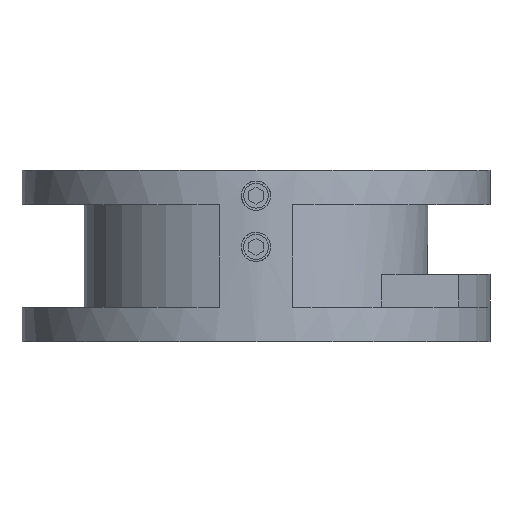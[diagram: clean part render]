
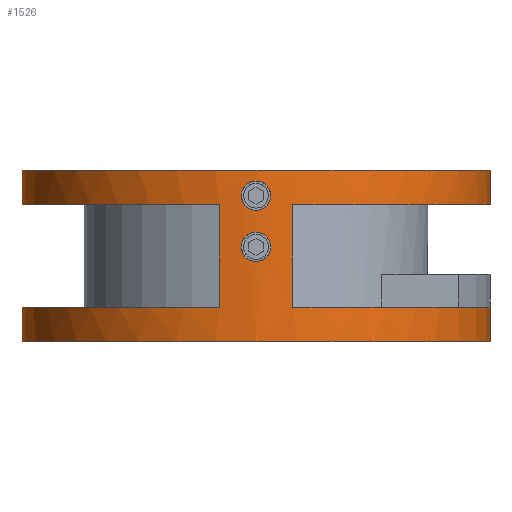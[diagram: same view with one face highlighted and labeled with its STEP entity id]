
A CAD part, front view. The second image highlights one B-rep face of the part: STEP entity #1526.
In plain terms, the highlighted cylindrical face has radius 64 mm (diameter 128 mm), a partial arc.
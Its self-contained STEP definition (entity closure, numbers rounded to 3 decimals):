
#7=CARTESIAN_POINT('',(0.,0.,-23.5));
#8=DIRECTION('',(0.,0.,1.));
#9=DIRECTION('',(-1.,0.,0.));
#10=AXIS2_PLACEMENT_3D('',#7,#8,#9);
#110=DIRECTION('',(0.,0.,1.));
#111=VECTOR('',#110,9.5);
#112=CARTESIAN_POINT('',(64.,0.,-23.5));
#113=LINE('',#112,#111);
#132=DIRECTION('',(0.,0.,1.));
#133=VECTOR('',#132,9.5);
#134=CARTESIAN_POINT('',(64.,0.,14.));
#135=LINE('',#134,#133);
#206=CARTESIAN_POINT('',(0.,0.,-14.));
#207=DIRECTION('',(0.,0.,1.));
#208=DIRECTION('',(0.866,-0.5,0.));
#209=AXIS2_PLACEMENT_3D('',#206,#207,#208);
#211=DIRECTION('',(0.,0.,1.));
#212=VECTOR('',#211,9.5);
#213=CARTESIAN_POINT('',(-64.,0.,-23.5));
#214=LINE('',#213,#212);
#215=CARTESIAN_POINT('',(0.,0.,-14.));
#216=DIRECTION('',(0.,0.,1.));
#217=DIRECTION('',(-1.,0.,0.));
#218=AXIS2_PLACEMENT_3D('',#215,#216,#217);
#220=DIRECTION('',(0.,0.,1.));
#221=VECTOR('',#220,28.);
#222=CARTESIAN_POINT('',(-10.,-63.214,-14.));
#223=LINE('',#222,#221);
#224=CARTESIAN_POINT('',(0.,0.,14.));
#225=DIRECTION('',(0.,0.,1.));
#226=DIRECTION('',(-1.,0.,0.));
#227=AXIS2_PLACEMENT_3D('',#224,#225,#226);
#229=DIRECTION('',(0.,0.,1.));
#230=VECTOR('',#229,9.5);
#231=CARTESIAN_POINT('',(-64.,0.,14.));
#232=LINE('',#231,#230);
#233=CARTESIAN_POINT('',(0.,0.,14.));
#234=DIRECTION('',(0.,0.,1.));
#235=DIRECTION('',(0.156,-0.988,0.));
#236=AXIS2_PLACEMENT_3D('',#233,#234,#235);
#238=CARTESIAN_POINT('',(0.,0.,-14.));
#239=DIRECTION('',(0.,0.,1.));
#240=DIRECTION('',(0.156,-0.988,0.));
#241=AXIS2_PLACEMENT_3D('',#238,#239,#240);
#243=CARTESIAN_POINT('',(-3.4,-63.91,16.5));
#244=CARTESIAN_POINT('',(-3.4,-63.91,16.168));
#245=CARTESIAN_POINT('',(-3.307,-63.915,15.534));
#246=CARTESIAN_POINT('',(-2.9,-63.935,14.636));
#247=CARTESIAN_POINT('',(-2.257,-63.962,13.896));
#248=CARTESIAN_POINT('',(-1.431,-63.986,13.365));
#249=CARTESIAN_POINT('',(-0.49,-64.001,
13.089));
#250=CARTESIAN_POINT('',(0.49,-64.001,13.089));
#251=CARTESIAN_POINT('',(1.431,-63.986,13.365));
#252=CARTESIAN_POINT('',(2.257,-63.962,13.896));
#253=CARTESIAN_POINT('',(2.9,-63.935,14.636));
#254=CARTESIAN_POINT('',(3.307,-63.915,15.534));
#255=CARTESIAN_POINT('',(3.4,-63.91,16.168));
#256=CARTESIAN_POINT('',(3.4,-63.91,16.5));
#258=CARTESIAN_POINT('',(3.4,-63.91,16.5));
#259=CARTESIAN_POINT('',(3.4,-63.91,16.832));
#260=CARTESIAN_POINT('',(3.307,-63.915,17.466));
#261=CARTESIAN_POINT('',(2.9,-63.935,18.364));
#262=CARTESIAN_POINT('',(2.257,-63.962,19.104));
#263=CARTESIAN_POINT('',(1.431,-63.986,19.635));
#264=CARTESIAN_POINT('',(0.49,-64.001,19.911));
#265=CARTESIAN_POINT('',(-0.49,-64.001,
19.911));
#266=CARTESIAN_POINT('',(-1.431,-63.986,19.635));
#267=CARTESIAN_POINT('',(-2.257,-63.962,19.104));
#268=CARTESIAN_POINT('',(-2.9,-63.935,18.364));
#269=CARTESIAN_POINT('',(-3.307,-63.915,17.466));
#270=CARTESIAN_POINT('',(-3.4,-63.91,16.832));
#271=CARTESIAN_POINT('',(-3.4,-63.91,16.5));
#273=CARTESIAN_POINT('',(-3.4,-63.91,2.5));
#274=CARTESIAN_POINT('',(-3.4,-63.91,2.168));
#275=CARTESIAN_POINT('',(-3.307,-63.915,1.534));
#276=CARTESIAN_POINT('',(-2.9,-63.935,
0.636));
#277=CARTESIAN_POINT('',(-2.257,-63.962,
-0.104));
#278=CARTESIAN_POINT('',(-1.431,-63.986,
-0.635));
#279=CARTESIAN_POINT('',(-0.49,-64.001,
-0.911));
#280=CARTESIAN_POINT('',(0.49,-64.001,
-0.911));
#281=CARTESIAN_POINT('',(1.431,-63.986,
-0.635));
#282=CARTESIAN_POINT('',(2.257,-63.962,
-0.104));
#283=CARTESIAN_POINT('',(2.9,-63.935,0.636));
#284=CARTESIAN_POINT('',(3.307,-63.915,1.534));
#285=CARTESIAN_POINT('',(3.4,-63.91,2.168));
#286=CARTESIAN_POINT('',(3.4,-63.91,2.5));
#288=CARTESIAN_POINT('',(3.4,-63.91,2.5));
#289=CARTESIAN_POINT('',(3.4,-63.91,2.832));
#290=CARTESIAN_POINT('',(3.307,-63.915,3.466));
#291=CARTESIAN_POINT('',(2.9,-63.935,4.364));
#292=CARTESIAN_POINT('',(2.257,-63.962,5.104));
#293=CARTESIAN_POINT('',(1.431,-63.986,5.635));
#294=CARTESIAN_POINT('',(0.49,-64.001,5.911));
#295=CARTESIAN_POINT('',(-0.49,-64.001,
5.911));
#296=CARTESIAN_POINT('',(-1.431,-63.986,5.635));
#297=CARTESIAN_POINT('',(-2.257,-63.962,5.104));
#298=CARTESIAN_POINT('',(-2.9,-63.935,4.364));
#299=CARTESIAN_POINT('',(-3.307,-63.915,3.466));
#300=CARTESIAN_POINT('',(-3.4,-63.91,2.832));
#301=CARTESIAN_POINT('',(-3.4,-63.91,2.5));
#418=DIRECTION('',(0.,0.,1.));
#419=VECTOR('',#418,28.);
#420=CARTESIAN_POINT('',(10.,-63.214,-14.));
#421=LINE('',#420,#419);
#427=CARTESIAN_POINT('',(0.,0.,23.5));
#428=DIRECTION('',(0.,0.,1.));
#429=DIRECTION('',(-1.,0.,0.));
#430=AXIS2_PLACEMENT_3D('',#427,#428,#429);
#1092=CARTESIAN_POINT('',(64.,0.,-23.5));
#1093=CARTESIAN_POINT('',(-64.,0.,-23.5));
#1094=VERTEX_POINT('',#1092);
#1095=VERTEX_POINT('',#1093);
#1096=CARTESIAN_POINT('',(64.,0.,23.5));
#1097=CARTESIAN_POINT('',(-64.,0.,23.5));
#1098=VERTEX_POINT('',#1096);
#1099=VERTEX_POINT('',#1097);
#1108=CARTESIAN_POINT('',(64.,0.,14.));
#1109=VERTEX_POINT('',#1108);
#1110=CARTESIAN_POINT('',(-64.,0.,-14.));
#1111=VERTEX_POINT('',#1110);
#1112=CARTESIAN_POINT('',(-64.,0.,14.));
#1113=VERTEX_POINT('',#1112);
#1123=CARTESIAN_POINT('',(-10.,-63.214,-14.));
#1125=VERTEX_POINT('',#1123);
#1126=CARTESIAN_POINT('',(10.,-63.214,-14.));
#1128=VERTEX_POINT('',#1126);
#1139=CARTESIAN_POINT('',(-10.,-63.214,14.));
#1141=VERTEX_POINT('',#1139);
#1142=CARTESIAN_POINT('',(10.,-63.214,14.));
#1144=VERTEX_POINT('',#1142);
#1150=CARTESIAN_POINT('',(55.426,-32.,-14.));
#1151=CARTESIAN_POINT('',(64.,0.,-14.));
#1152=VERTEX_POINT('',#1150);
#1153=VERTEX_POINT('',#1151);
#1335=CARTESIAN_POINT('',(3.4,-63.91,16.5));
#1337=VERTEX_POINT('',#1335);
#1339=CARTESIAN_POINT('',(-3.4,-63.91,16.5));
#1341=VERTEX_POINT('',#1339);
#1343=CARTESIAN_POINT('',(3.4,-63.91,2.5));
#1345=VERTEX_POINT('',#1343);
#1347=CARTESIAN_POINT('',(-3.4,-63.91,2.5));
#1349=VERTEX_POINT('',#1347);
#1487=CARTESIAN_POINT('',(0.,0.,-23.5));
#1488=DIRECTION('',(0.,0.,1.));
#1489=DIRECTION('',(1.,0.,0.));
#1490=AXIS2_PLACEMENT_3D('',#1487,#1488,#1489);
#1491=CYLINDRICAL_SURFACE('',#1490,64.);
#1492=ORIENTED_EDGE('',*,*,#1443,.T.);
#1493=ORIENTED_EDGE('',*,*,#1441,.F.);
#1494=ORIENTED_EDGE('',*,*,#1357,.F.);
#1495=ORIENTED_EDGE('',*,*,#1469,.T.);
#1497=ORIENTED_EDGE('',*,*,#1496,.T.);
#1499=ORIENTED_EDGE('',*,*,#1498,.T.);
#1501=ORIENTED_EDGE('',*,*,#1500,.F.);
#1502=ORIENTED_EDGE('',*,*,#1461,.T.);
#1504=ORIENTED_EDGE('',*,*,#1503,.T.);
#1505=ORIENTED_EDGE('',*,*,#1457,.F.);
#1507=ORIENTED_EDGE('',*,*,#1506,.F.);
#1509=ORIENTED_EDGE('',*,*,#1508,.F.);
#1511=ORIENTED_EDGE('',*,*,#1510,.T.);
#1512=EDGE_LOOP('',(#1492,#1493,#1494,#1495,#1497,#1499,#1501,#1502,#1504,#1505,
#1507,#1509,#1511));
#1513=FACE_OUTER_BOUND('',#1512,.F.);
#1515=ORIENTED_EDGE('',*,*,#1514,.T.);
#1517=ORIENTED_EDGE('',*,*,#1516,.T.);
#1518=EDGE_LOOP('',(#1515,#1517));
#1519=FACE_BOUND('',#1518,.F.);
#1521=ORIENTED_EDGE('',*,*,#1520,.T.);
#1523=ORIENTED_EDGE('',*,*,#1522,.T.);
#1524=EDGE_LOOP('',(#1521,#1523));
#1525=FACE_BOUND('',#1524,.F.);
#1526=ADVANCED_FACE('',(#1513,#1519,#1525),#1491,.T.);
#11=CIRCLE('',#10,64.);
#210=CIRCLE('',#209,64.);
#219=CIRCLE('',#218,64.);
#228=CIRCLE('',#227,64.);
#237=CIRCLE('',#236,64.);
#242=CIRCLE('',#241,64.);
#257=B_SPLINE_CURVE_WITH_KNOTS('',3,(#243,#244,#245,#246,#247,#248,#249,#250,
#251,#252,#253,#254,#255,#256),.UNSPECIFIED.,.F.,.F.,(4,1,1,1,1,1,1,1,1,1,1,4),(
0.,0.091,0.182,0.273,0.364,
0.455,0.545,0.636,0.727,
0.818,0.909,1.),.UNSPECIFIED.);
#272=B_SPLINE_CURVE_WITH_KNOTS('',3,(#258,#259,#260,#261,#262,#263,#264,#265,
#266,#267,#268,#269,#270,#271),.UNSPECIFIED.,.F.,.F.,(4,1,1,1,1,1,1,1,1,1,1,4),(
0.,0.091,0.182,0.273,0.364,
0.455,0.545,0.636,0.727,
0.818,0.909,1.),.UNSPECIFIED.);
#287=B_SPLINE_CURVE_WITH_KNOTS('',3,(#273,#274,#275,#276,#277,#278,#279,#280,
#281,#282,#283,#284,#285,#286),.UNSPECIFIED.,.F.,.F.,(4,1,1,1,1,1,1,1,1,1,1,4),(
0.,0.091,0.182,0.273,0.364,
0.455,0.545,0.636,0.727,
0.818,0.909,1.),.UNSPECIFIED.);
#302=B_SPLINE_CURVE_WITH_KNOTS('',3,(#288,#289,#290,#291,#292,#293,#294,#295,
#296,#297,#298,#299,#300,#301),.UNSPECIFIED.,.F.,.F.,(4,1,1,1,1,1,1,1,1,1,1,4),(
0.,0.091,0.182,0.273,0.364,
0.455,0.545,0.636,0.727,
0.818,0.909,1.),.UNSPECIFIED.);
#431=CIRCLE('',#430,64.);
#1357=EDGE_CURVE('',#1095,#1094,#11,.T.);
#1441=EDGE_CURVE('',#1094,#1153,#113,.T.);
#1443=EDGE_CURVE('',#1152,#1153,#210,.T.);
#1457=EDGE_CURVE('',#1109,#1098,#135,.T.);
#1461=EDGE_CURVE('',#1113,#1099,#232,.T.);
#1469=EDGE_CURVE('',#1095,#1111,#214,.T.);
#1496=EDGE_CURVE('',#1111,#1125,#219,.T.);
#1498=EDGE_CURVE('',#1125,#1141,#223,.T.);
#1500=EDGE_CURVE('',#1113,#1141,#228,.T.);
#1503=EDGE_CURVE('',#1099,#1098,#431,.T.);
#1506=EDGE_CURVE('',#1144,#1109,#237,.T.);
#1508=EDGE_CURVE('',#1128,#1144,#421,.T.);
#1510=EDGE_CURVE('',#1128,#1152,#242,.T.);
#1514=EDGE_CURVE('',#1341,#1337,#257,.T.);
#1516=EDGE_CURVE('',#1337,#1341,#272,.T.);
#1520=EDGE_CURVE('',#1349,#1345,#287,.T.);
#1522=EDGE_CURVE('',#1345,#1349,#302,.T.);
